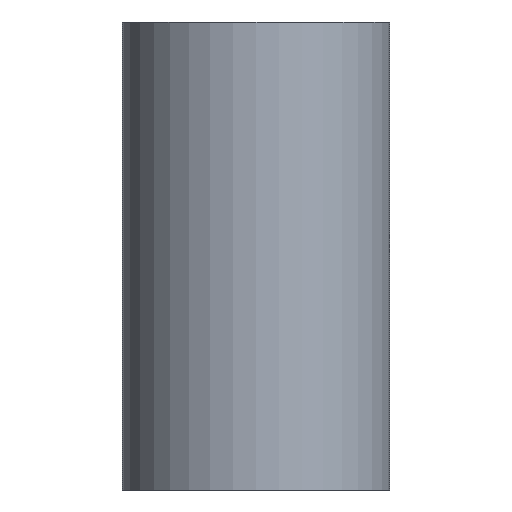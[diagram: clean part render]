
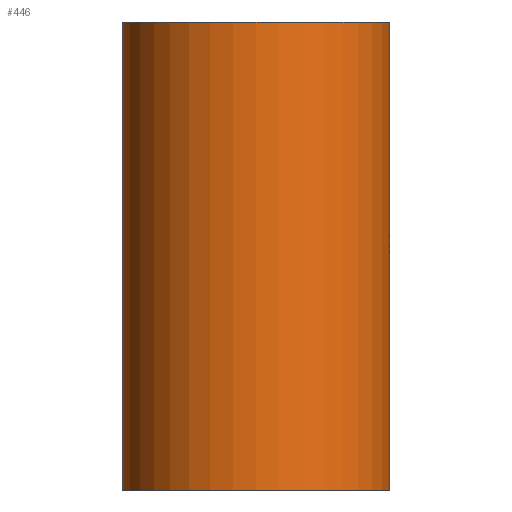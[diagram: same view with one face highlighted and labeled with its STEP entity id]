
A CAD part, front view. The second image highlights one B-rep face of the part: STEP entity #446.
In plain terms, the highlighted cylindrical face has radius 10 mm (diameter 20 mm), a partial arc.
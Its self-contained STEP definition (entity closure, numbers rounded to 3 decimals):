
#45 = FACE_OUTER_BOUND ( 'NONE', #211, .T. ) ;
#48 = VERTEX_POINT ( 'NONE', #124 ) ;
#72 = ORIENTED_EDGE ( 'NONE', *, *, #272, .T. ) ;
#78 = DIRECTION ( 'NONE',  ( 0., 0., -1. ) ) ;
#87 = CARTESIAN_POINT ( 'NONE',  ( 20., -80., 35. ) ) ;
#124 = CARTESIAN_POINT ( 'NONE',  ( 20., -80., 35. ) ) ;
#126 = DIRECTION ( 'NONE',  ( 1., 0., 0. ) ) ;
#130 = DIRECTION ( 'NONE',  ( 0., 0., -1. ) ) ;
#188 = LINE ( 'NONE', #358, #579 ) ;
#209 = AXIS2_PLACEMENT_3D ( 'NONE', #674, #567, #301 ) ;
#211 = EDGE_LOOP ( 'NONE', ( #633, #274, #371, #72 ) ) ;
#250 = CARTESIAN_POINT ( 'NONE',  ( 10., -80., 35. ) ) ;
#253 = CYLINDRICAL_SURFACE ( 'NONE', #209, 10. ) ;
#254 = CARTESIAN_POINT ( 'NONE',  ( 0., -80., 0. ) ) ;
#258 = DIRECTION ( 'NONE',  ( 1., 0., 0. ) ) ;
#272 = EDGE_CURVE ( 'NONE', #489, #654, #188, .T. ) ;
#274 = ORIENTED_EDGE ( 'NONE', *, *, #536, .F. ) ;
#301 = DIRECTION ( 'NONE',  ( -1., 0., 0. ) ) ;
#304 = AXIS2_PLACEMENT_3D ( 'NONE', #439, #351, #126 ) ;
#305 = DIRECTION ( 'NONE',  ( 0., 0., 1. ) ) ;
#351 = DIRECTION ( 'NONE',  ( 0., 0., 1. ) ) ;
#358 = CARTESIAN_POINT ( 'NONE',  ( 0., -80., 35. ) ) ;
#371 = ORIENTED_EDGE ( 'NONE', *, *, #662, .F. ) ;
#402 = VECTOR ( 'NONE', #78, 1000. ) ;
#439 = CARTESIAN_POINT ( 'NONE',  ( 10., -80., 0. ) ) ;
#446 = ADVANCED_FACE ( 'NONE', ( #45 ), #253, .T. ) ;
#464 = EDGE_CURVE ( 'NONE', #654, #590, #478, .T. ) ;
#478 = CIRCLE ( 'NONE', #304, 10. ) ;
#489 = VERTEX_POINT ( 'NONE', #511 ) ;
#511 = CARTESIAN_POINT ( 'NONE',  ( 0., -80., 35. ) ) ;
#519 = CARTESIAN_POINT ( 'NONE',  ( 20., -80., 0. ) ) ;
#536 = EDGE_CURVE ( 'NONE', #48, #590, #606, .T. ) ;
#567 = DIRECTION ( 'NONE',  ( 0., 0., -1. ) ) ;
#579 = VECTOR ( 'NONE', #130, 1000. ) ;
#590 = VERTEX_POINT ( 'NONE', #519 ) ;
#606 = LINE ( 'NONE', #87, #402 ) ;
#631 = CIRCLE ( 'NONE', #666, 10. ) ;
#633 = ORIENTED_EDGE ( 'NONE', *, *, #464, .T. ) ;
#654 = VERTEX_POINT ( 'NONE', #254 ) ;
#662 = EDGE_CURVE ( 'NONE', #489, #48, #631, .T. ) ;
#666 = AXIS2_PLACEMENT_3D ( 'NONE', #250, #305, #258 ) ;
#674 = CARTESIAN_POINT ( 'NONE',  ( 10., -80., 35. ) ) ;
